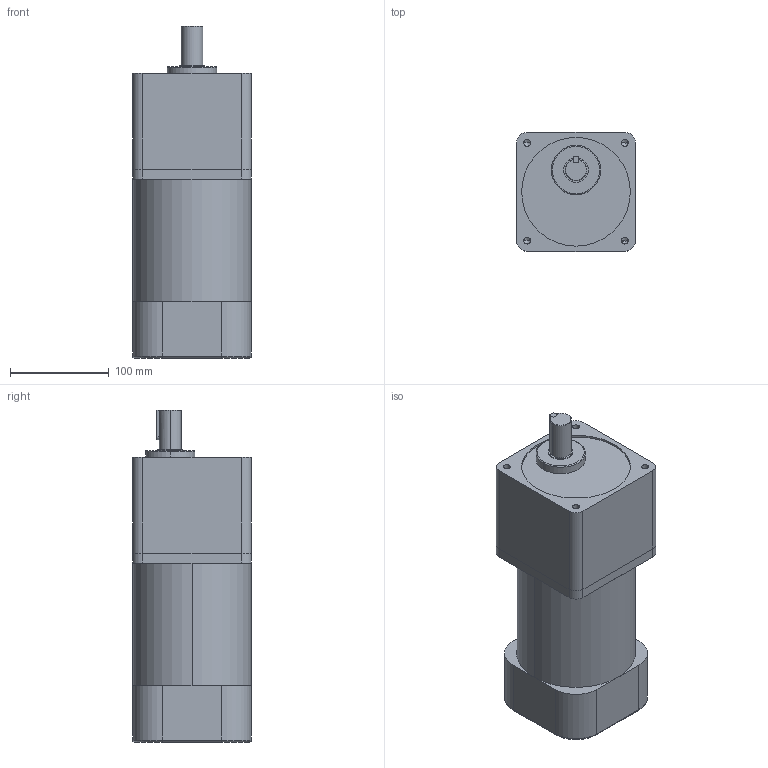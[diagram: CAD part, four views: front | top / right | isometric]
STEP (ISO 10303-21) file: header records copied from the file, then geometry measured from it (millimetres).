
FILE_DESCRIPTION (( 'STEP AP203' ), '1' );
FILE_NAME ('M7TK-200C.STEP', '2019-02-15T07:43:55', ( 'User' ), ( 'www.dadighost.com' ), 'SwSTEP 2.0', 'SolidWorks 2014', '' );
FILE_SCHEMA (( 'CONFIG_CONTROL_DESIGN' ));
Length unit declared in the file: millimetre
Products named in the file (1): M7TK-200C
Bounding box: 120 x 120 x 336 mm (x, y, z)
Volume: 3721873.2 mm3; surface area: 189947.1 mm2
Topology: 3 solids, 3 shells, 90 faces, 208 edges, 124 vertices
Faces by surface type: cylinder 37, plane 36, cone 11, torus 6
Entity records: 2593 total; most frequent: DIRECTION 468, CARTESIAN_POINT 452, ORIENTED_EDGE 400, EDGE_CURVE 200, AXIS2_PLACEMENT_3D 180, VERTEX_POINT 124, LINE 108, VECTOR 108
